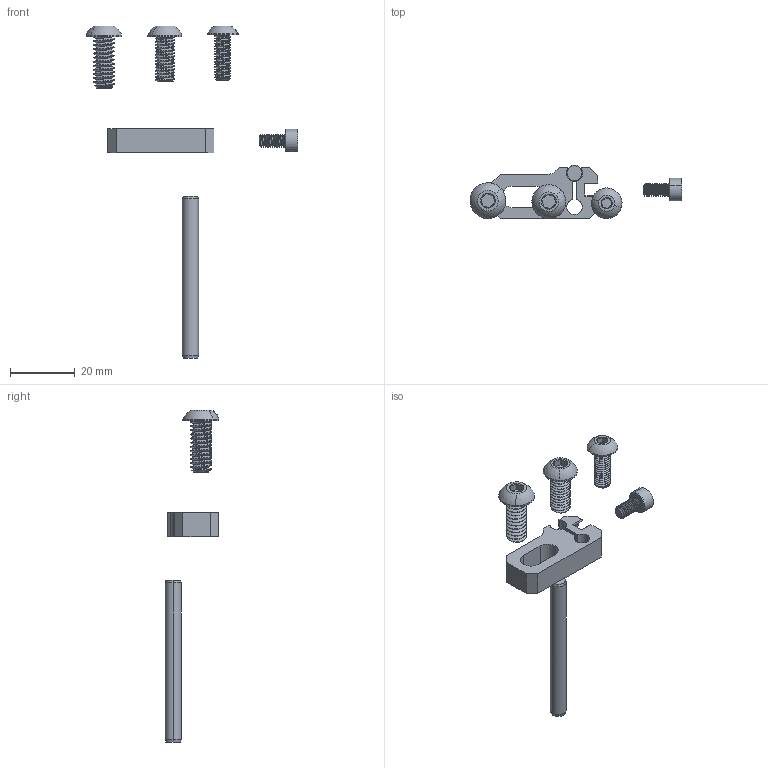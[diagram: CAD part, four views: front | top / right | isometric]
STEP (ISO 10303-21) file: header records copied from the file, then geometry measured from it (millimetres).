
FILE_DESCRIPTION (( 'STEP AP214' ), '1' );
FILE_NAME ('WSM.STEP', '2020-10-09T19:53:54', ( '' ), ( '' ), 'SwSTEP 2.0', 'SolidWorks 2018', '' );
FILE_SCHEMA (( 'AUTOMOTIVE_DESIGN' ));
Length unit declared in the file: millimetre
Products named in the file (7): M4-0.7 X 8mm SHCS (91290A140)_91290A140; WSM; 025-20 X 0625 BHCS (91255A539)_91255A539; M6-1.0 X 14mm (91239A319).PDF_91239A319; M5-0.8 X 14mm BHCS (91239A230)_91239A230; D_WSM-1; 5mm x 50mm Dowel Pin (91595A392)_93600A613
Assembly tree (6 placements, depth 2):
  WSM
    D_WSM-1
    M5-0.8 X 14mm BHCS (91239A230)_91239A230
    M6-1.0 X 14mm (91239A319).PDF_91239A319
    025-20 X 0625 BHCS (91255A539)_91255A539
    M4-0.7 X 8mm SHCS (91290A140)_91290A140
    5mm x 50mm Dowel Pin (91595A392)_93600A613
Bounding box: 65.56 x 16.62 x 102.67 mm (x, y, z)
Volume: 4907.9 mm3; surface area: 5070.3 mm2
Topology: 6 solids, 6 shells, 356 faces, 947 edges, 610 vertices
Faces by surface type: cylinder 226, plane 63, cone 52, bspline 9, sphere 6
Entity records: 18149 total; most frequent: CARTESIAN_POINT 10200, ORIENTED_EDGE 1890, DIRECTION 1354, EDGE_CURVE 945, VERTEX_POINT 610, AXIS2_PLACEMENT_3D 501, EDGE_LOOP 369, ADVANCED_FACE 356
